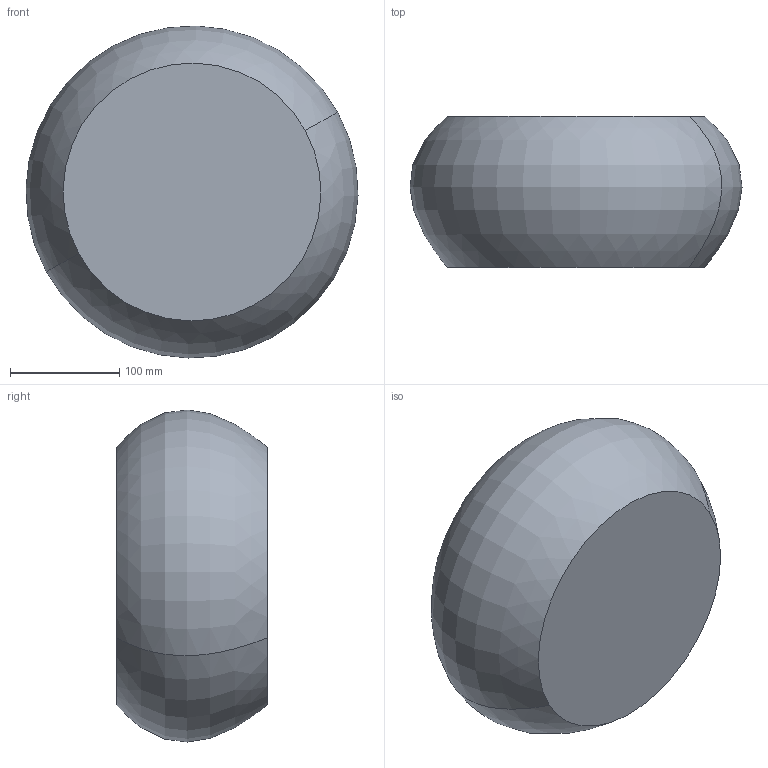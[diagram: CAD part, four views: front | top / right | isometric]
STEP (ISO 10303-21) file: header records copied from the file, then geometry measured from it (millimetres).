
FILE_DESCRIPTION(('CATIA V5 STEP Exchange'),'2;1');
FILE_NAME('C:\_Andres\UNIVERSIDAD\IQS\ASIGNATURAS\DAO\EXF\EXF-15161c\1original\Vila_Vaquer_Ej10-decora_v28.stp','2016-03-04T22:24:15+00:00',('none'),('none'),'CATIA Version 5 Release 20 SP 1 (IN-10)','CATIA V5 STEP AP203','none');
FILE_SCHEMA(('CONFIG_CONTROL_DESIGN'));
Length unit declared in the file: millimetre
Products named in the file (1): Vila_Vaquer_Ej10-decora_v28
Bounding box: 303.95 x 138 x 303.95 mm (x, y, z)
Volume: 8625758.3 mm3; surface area: 226135.8 mm2
Topology: 1 solids, 1 shells, 4 faces, 6 edges, 4 vertices
Faces by surface type: revolution 2, plane 2
Entity records: 166 total; most frequent: CARTESIAN_POINT 50, DIRECTION 12, ORIENTED_EDGE 12, AXIS2_PLACEMENT_3D 8, EDGE_CURVE 6, ADVANCED_FACE 4, B_SPLINE_CURVE_WITH_KNOTS 4, CC_DESIGN_PERSON_AND_ORGANIZATION_ASSIGNMENT 4
